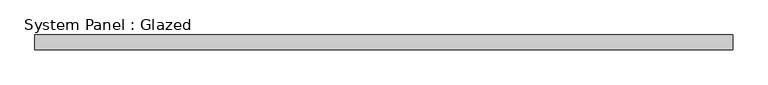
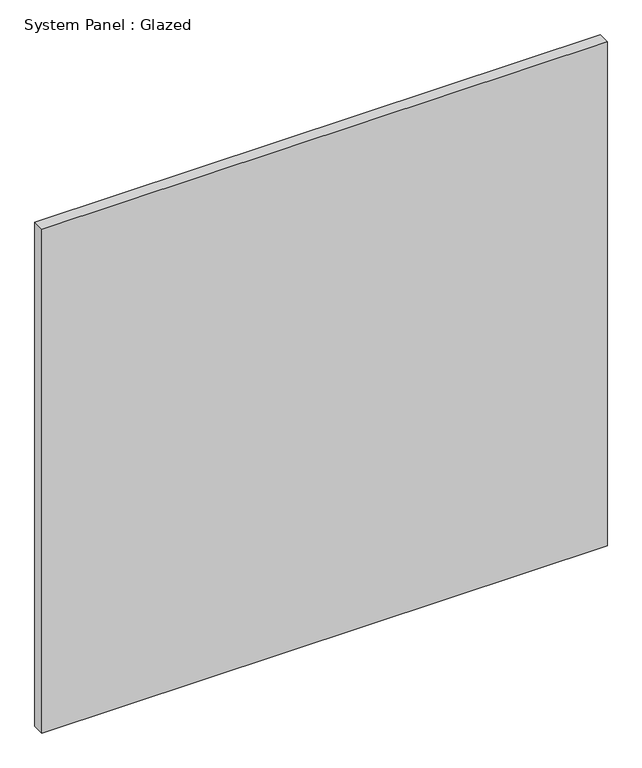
"""IFC4 building model written with IfcOpenShell, lengths in millimetres: plate geometry, System Panel : Glazed."""

from ifc_helpers import new_model, si_unit, origin, origin_with_axes, place, context, project, spatial, polyline, outline, extrude, source, transform, mapped, element, save


def system_panel_glazed_52179baa(model_context):
    return source(origin(), model_context, "Body", "SweptSolid", [
        extrude(outline(polyline([(597.3125, -49.5), (-597.3125, -49.5), (-597.3125, -24.5), (597.3125, -24.5), (597.3125, -49.5)])), origin_with_axes(), (0.0, 0.0, 1.0), 1125.0),
    ])


if __name__ == "__main__":
    model = new_model("IFC4")
    model_context = context("Model", 3, world=origin())
    ifc_project = project(units=[si_unit("LENGTHUNIT", "METRE", prefix="MILLI")], contexts=[model_context])
    site = spatial("IfcSite", under=ifc_project)
    building = spatial("IfcBuilding", under=site)
    placement = place(None, origin())
    system_panel_glazed_shape = system_panel_glazed_52179baa(model_context)
    element("IfcPlate", 1, ObjectType="System Panel : Glazed", at=placement, inside=building, context=model_context, shape_type="MappedRepresentation", body=[
        mapped(system_panel_glazed_shape, transform((0.0, 0.0, 0.0), x_axis=(1.0, 0.0, 0.0), y_axis=(0.0, 1.0, 0.0), z_axis=(0.0, 0.0, 1.0))),
    ])
    save(model, "model.ifc")
